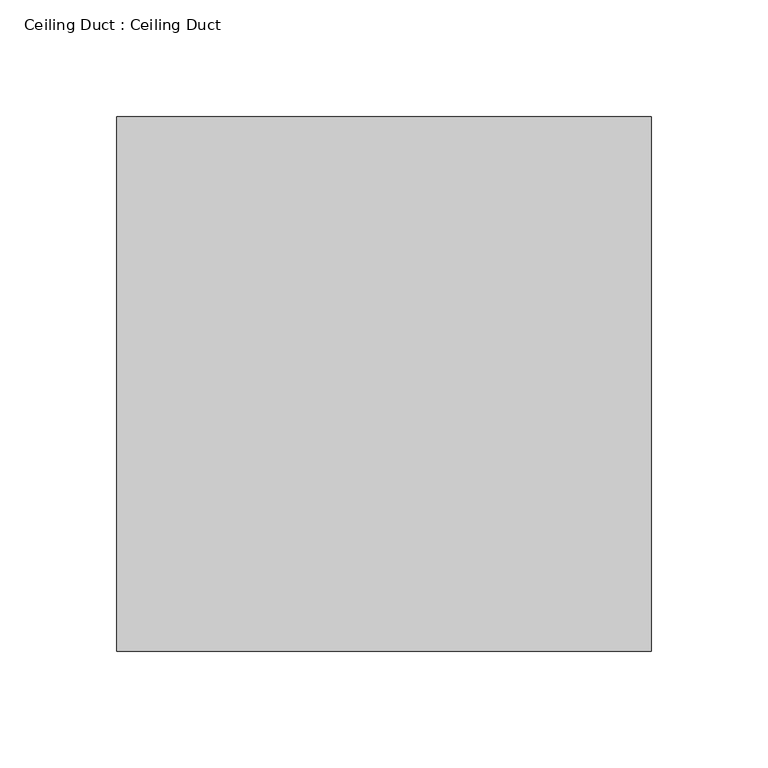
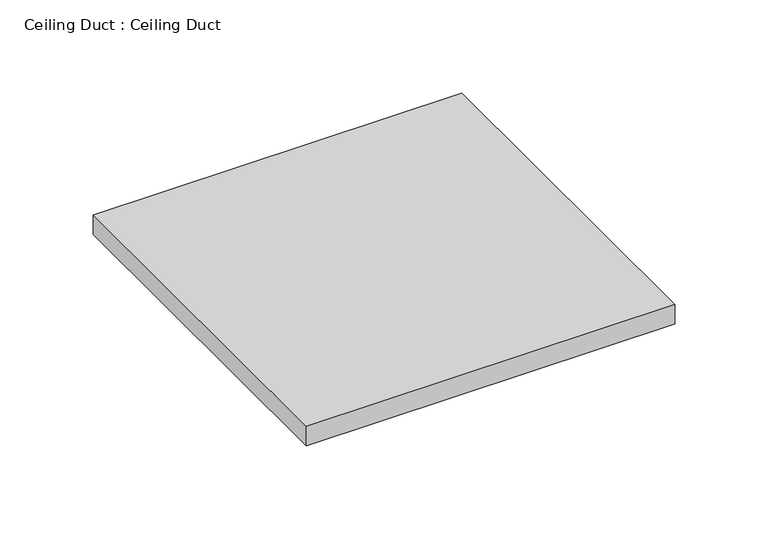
"""IFC4 building model written with IfcOpenShell, lengths in millimetres: proxy geometry, Ceiling Duct : Ceiling Duct."""

from ifc_helpers import new_model, si_unit, frame, origin, place, context, project, spatial, polyline, outline, extrude, source, transform, mapped, element, save


def ceiling_duct_ceiling_duct_531b3f96(model_context):
    return source(origin(), model_context, "Body", "SweptSolid", [
        extrude(outline(polyline([(228.6, -228.6), (0.0, -228.6), (0.0, 0.0), (228.6, 0.0), (228.6, -228.6)])), frame((0.0, 0.0, -12.7), z_axis=(0.0, 0.0, 1.0), x_axis=(1.0, 0.0, 0.0)), (0.0, 0.0, 1.0), 12.7),
    ])


if __name__ == "__main__":
    model = new_model("IFC4")
    model_context = context("Model", 3, world=origin())
    ifc_project = project(units=[si_unit("LENGTHUNIT", "METRE", prefix="MILLI")], contexts=[model_context])
    site = spatial("IfcSite", under=ifc_project)
    building = spatial("IfcBuilding", under=site)
    placement = place(None, origin())
    ceiling_duct_ceiling_duct_shape = ceiling_duct_ceiling_duct_531b3f96(model_context)
    element("IfcBuildingElementProxy", 1, Name="Ceiling Duct : Ceiling Duct", ObjectType="Ceiling Duct : Ceiling Duct", at=placement, inside=building, context=model_context, shape_type="MappedRepresentation", body=[
        mapped(ceiling_duct_ceiling_duct_shape, transform((0.0, 0.0, 0.0), x_axis=(1.0, 0.0, 0.0), y_axis=(0.0, 1.0, 0.0), z_axis=(0.0, 0.0, 1.0))),
    ])
    save(model, "model.ifc")
